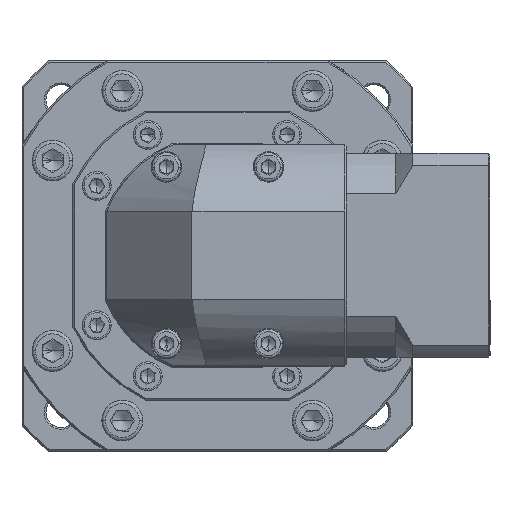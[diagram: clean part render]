
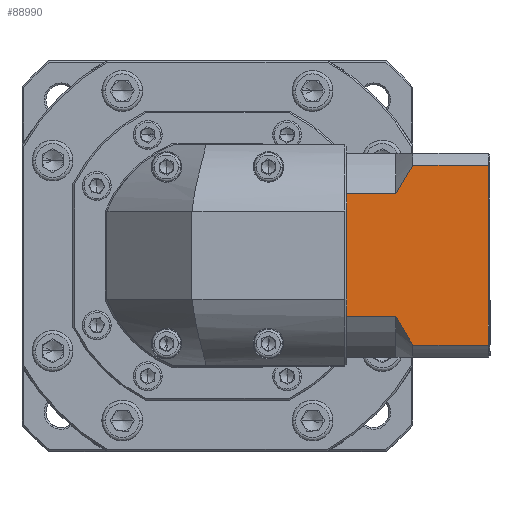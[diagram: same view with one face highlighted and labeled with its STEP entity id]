
A CAD part, top view. The second image highlights one B-rep face of the part: STEP entity #88990.
In plain terms, the highlighted planar face has unit normal (0, 0, 1).
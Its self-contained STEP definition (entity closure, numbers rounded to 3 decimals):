
#79 = CARTESIAN_POINT ( 'NONE',  ( 77.585, 148.031, 32.992 ) ) ;
#1432 = CARTESIAN_POINT ( 'NONE',  ( 92.085, 136.059, 32.992 ) ) ;
#1883 = CARTESIAN_POINT ( 'NONE',  ( 93.637, 138.942, 32.992 ) ) ;
#3911 = CARTESIAN_POINT ( 'NONE',  ( 77.585, 135.068, 32.992 ) ) ;
#5767 = VECTOR ( 'NONE', #87634, 1000. ) ;
#6433 = ORIENTED_EDGE ( 'NONE', *, *, #101622, .T. ) ;
#8932 = VECTOR ( 'NONE', #79658, 1000. ) ;
#9010 = CARTESIAN_POINT ( 'NONE',  ( 119.285, 91.574, 32.992 ) ) ;
#11971 = EDGE_CURVE ( 'NONE', #28313, #124245, #133884, .T. ) ;
#14911 = VERTEX_POINT ( 'NONE', #87719 ) ;
#19454 = CARTESIAN_POINT ( 'NONE',  ( 77.585, 100.994, 32.992 ) ) ;
#20646 = VERTEX_POINT ( 'NONE', #72574 ) ;
#21168 = EDGE_CURVE ( 'NONE', #28313, #73167, #99799, .T. ) ;
#26042 = LINE ( 'NONE', #101642, #8932 ) ;
#28313 = VERTEX_POINT ( 'NONE', #133398 ) ;
#29639 = CARTESIAN_POINT ( 'NONE',  ( 92.085, 100.003, 32.992 ) ) ;
#30869 = VERTEX_POINT ( 'NONE', #114192 ) ;
#31733 = VECTOR ( 'NONE', #83742, 1000. ) ;
#31929 = VERTEX_POINT ( 'NONE', #82310 ) ;
#32806 = ORIENTED_EDGE ( 'NONE', *, *, #140357, .T. ) ;
#32829 = LINE ( 'NONE', #104255, #84203 ) ;
#34329 = CARTESIAN_POINT ( 'NONE',  ( 96.186, 143.129, 32.992 ) ) ;
#34804 = CARTESIAN_POINT ( 'NONE',  ( 92.833, 137.511, 32.992 ) ) ;
#38241 = VECTOR ( 'NONE', #54612, 1000. ) ;
#41049 = ORIENTED_EDGE ( 'NONE', *, *, #90030, .F. ) ;
#41164 = VECTOR ( 'NONE', #95939, 1000. ) ;
#46448 = ORIENTED_EDGE ( 'NONE', *, *, #21168, .F. ) ;
#51991 = CARTESIAN_POINT ( 'NONE',  ( 92.835, 98.547, 32.992 ) ) ;
#52242 = CARTESIAN_POINT ( 'NONE',  ( 92.085, 144.489, 32.992 ) ) ;
#52483 = CARTESIAN_POINT ( 'NONE',  ( 93.636, 97.121, 32.992 ) ) ;
#53108 = DIRECTION ( 'NONE',  ( 0., -1., 0. ) ) ;
#54612 = DIRECTION ( 'NONE',  ( 0., -1., 0. ) ) ;
#55383 = CARTESIAN_POINT ( 'NONE',  ( 95.312, 141.75, 32.992 ) ) ;
#58233 = EDGE_CURVE ( 'NONE', #30869, #58940, #32829, .T. ) ;
#58940 = VERTEX_POINT ( 'NONE', #3911 ) ;
#59198 = EDGE_LOOP ( 'NONE', ( #88312, #6433, #46448, #60261, #111418, #135436, #141552, #32806, #41049, #61958 ) ) ;
#60261 = ORIENTED_EDGE ( 'NONE', *, *, #11971, .T. ) ;
#60366 = EDGE_CURVE ( 'NONE', #58940, #105815, #88487, .T. ) ;
#61958 = ORIENTED_EDGE ( 'NONE', *, *, #104085, .T. ) ;
#63473 = CARTESIAN_POINT ( 'NONE',  ( 95.31, 94.316, 32.992 ) ) ;
#64253 = LINE ( 'NONE', #29639, #31733 ) ;
#65386 = VECTOR ( 'NONE', #92601, 1000. ) ;
#69211 = VERTEX_POINT ( 'NONE', #9010 ) ;
#71892 = LINE ( 'NONE', #96898, #41164 ) ;
#72574 = CARTESIAN_POINT ( 'NONE',  ( 97.085, 91.574, 32.992 ) ) ;
#73084 = CARTESIAN_POINT ( 'NONE',  ( 92.085, 100.003, 32.992 ) ) ;
#73167 = VERTEX_POINT ( 'NONE', #135774 ) ;
#76732 = EDGE_CURVE ( 'NONE', #69211, #20646, #71892, .T. ) ;
#77482 = CARTESIAN_POINT ( 'NONE',  ( 92.085, 136.059, 32.992 ) ) ;
#79658 = DIRECTION ( 'NONE',  ( 0., 1., 0. ) ) ;
#82310 = CARTESIAN_POINT ( 'NONE',  ( 92.085, 100.003, 32.992 ) ) ;
#83742 = DIRECTION ( 'NONE',  ( -1., 0., 0. ) ) ;
#84203 = VECTOR ( 'NONE', #106130, 1000. ) ;
#85943 = DIRECTION ( 'NONE',  ( 1., 0., 0. ) ) ;
#87634 = DIRECTION ( 'NONE',  ( 1., 0., 0. ) ) ;
#87719 = CARTESIAN_POINT ( 'NONE',  ( 77.585, 100.003, 32.992 ) ) ;
#88312 = ORIENTED_EDGE ( 'NONE', *, *, #76732, .F. ) ;
#88487 = LINE ( 'NONE', #79, #133080 ) ;
#88990 = ADVANCED_FACE ( 'NONE', ( #112250 ), #128598, .F. ) ;
#90030 = EDGE_CURVE ( 'NONE', #31929, #14911, #64253, .T. ) ;
#92601 = DIRECTION ( 'NONE',  ( 1., 0., 0. ) ) ;
#94499 = LINE ( 'NONE', #137552, #65386 ) ;
#95069 = CARTESIAN_POINT ( 'NONE',  ( 119.785, 148.031, 32.992 ) ) ;
#95939 = DIRECTION ( 'NONE',  ( -1., 0., 0. ) ) ;
#96898 = CARTESIAN_POINT ( 'NONE',  ( 92.085, 91.574, 32.992 ) ) ;
#99799 = LINE ( 'NONE', #52242, #5767 ) ;
#101622 = EDGE_CURVE ( 'NONE', #69211, #73167, #26042, .T. ) ;
#101642 = CARTESIAN_POINT ( 'NONE',  ( 119.285, 148.031, 32.992 ) ) ;
#104085 = EDGE_CURVE ( 'NONE', #31929, #20646, #107369, .T. ) ;
#104255 = CARTESIAN_POINT ( 'NONE',  ( 77.585, 148.031, 32.992 ) ) ;
#105815 = VERTEX_POINT ( 'NONE', #19454 ) ;
#106097 = CARTESIAN_POINT ( 'NONE',  ( 96.184, 92.936, 32.992 ) ) ;
#106130 = DIRECTION ( 'NONE',  ( 0., -1., 0. ) ) ;
#107369 = B_SPLINE_CURVE_WITH_KNOTS ( 'NONE', 3,
 ( #73084, #51991, #52483, #63473, #106097, #140087 ),
 .UNSPECIFIED., .F., .F.,
 ( 4, 2, 4 ),
 ( 0.1, 0.104, 0.109 ),
 .UNSPECIFIED. ) ;
#107503 = DIRECTION ( 'NONE',  ( 0., 0., -1. ) ) ;
#110378 = CARTESIAN_POINT ( 'NONE',  ( 97.085, 144.489, 32.992 ) ) ;
#111418 = ORIENTED_EDGE ( 'NONE', *, *, #137316, .F. ) ;
#112250 = FACE_OUTER_BOUND ( 'NONE', #59198, .T. ) ;
#114192 = CARTESIAN_POINT ( 'NONE',  ( 77.585, 136.059, 32.992 ) ) ;
#120129 = CARTESIAN_POINT ( 'NONE',  ( 77.585, 148.031, 32.992 ) ) ;
#124245 = VERTEX_POINT ( 'NONE', #77482 ) ;
#125046 = AXIS2_PLACEMENT_3D ( 'NONE', #95069, #107503, #85943 ) ;
#128598 = PLANE ( 'NONE',  #125046 ) ;
#133080 = VECTOR ( 'NONE', #53108, 1000. ) ;
#133398 = CARTESIAN_POINT ( 'NONE',  ( 97.085, 144.489, 32.992 ) ) ;
#133884 = B_SPLINE_CURVE_WITH_KNOTS ( 'NONE', 3,
 ( #110378, #34329, #55383, #1883, #34804, #1432 ),
 .UNSPECIFIED., .F., .F.,
 ( 4, 2, 4 ),
 ( 0.052, 0.057, 0.062 ),
 .UNSPECIFIED. ) ;
#135436 = ORIENTED_EDGE ( 'NONE', *, *, #58233, .T. ) ;
#135774 = CARTESIAN_POINT ( 'NONE',  ( 119.285, 144.489, 32.992 ) ) ;
#137316 = EDGE_CURVE ( 'NONE', #30869, #124245, #94499, .T. ) ;
#137502 = LINE ( 'NONE', #120129, #38241 ) ;
#137552 = CARTESIAN_POINT ( 'NONE',  ( 92.085, 136.059, 32.992 ) ) ;
#140087 = CARTESIAN_POINT ( 'NONE',  ( 97.085, 91.574, 32.992 ) ) ;
#140357 = EDGE_CURVE ( 'NONE', #105815, #14911, #137502, .T. ) ;
#141552 = ORIENTED_EDGE ( 'NONE', *, *, #60366, .T. ) ;
